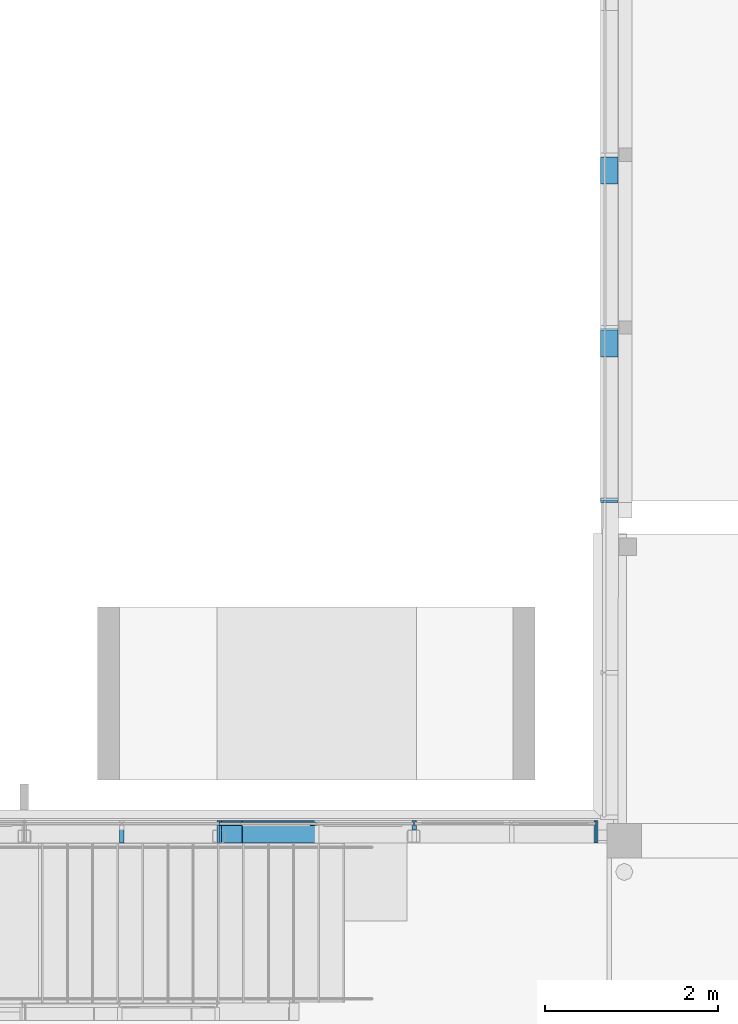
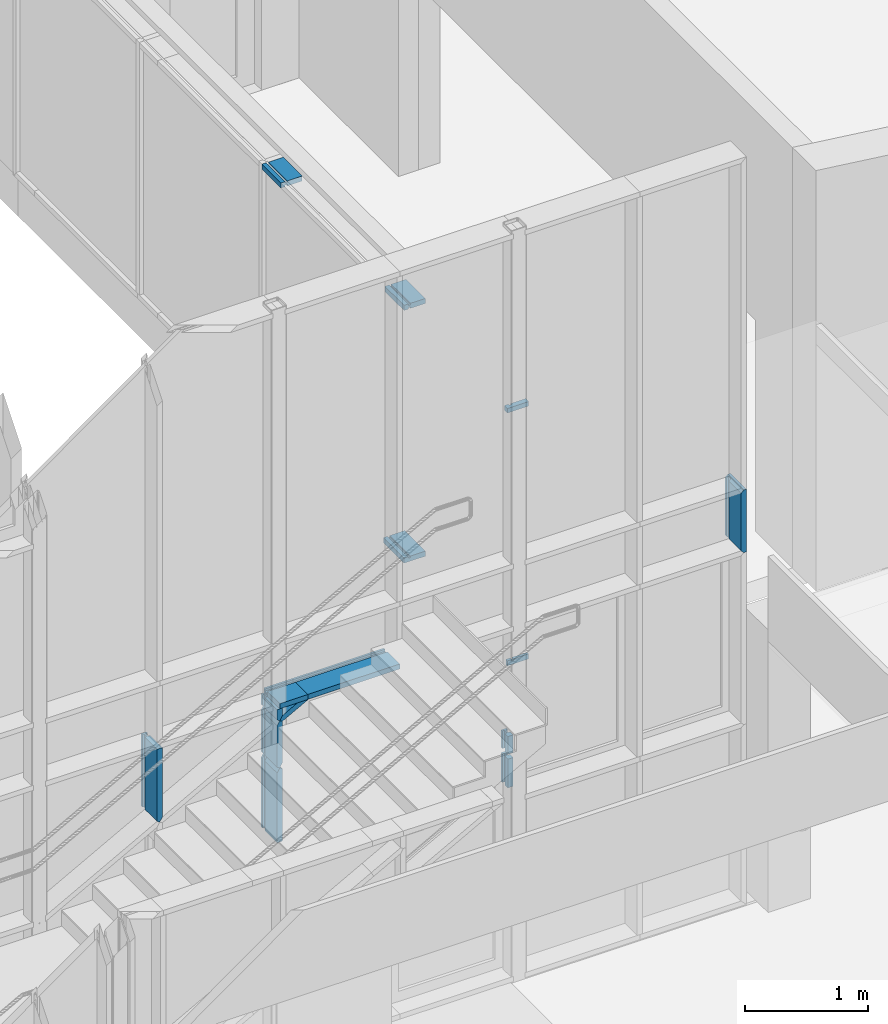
# One storey, part 70 of 301: 15 members, 2 elements without a shape of their own.
"""IFC2X3 building model written with IfcOpenShell, lengths in millimetres."""

from ifc_helpers import new_model, entity, si_unit, converted_unit, derived_unit, money_unit, direction, frame, origin_with_axes, place, context, subcontext, project, spatial, faceted_brep, material, type_object, element, aggregate, save


model = new_model("IFC2X3")

# Units and contexts
model_context = context("Model", 3, precision=0.01, world=origin_with_axes(), true_north=direction((0.0, 1.0)))
body_context = subcontext(model_context, "Body", "Model", "MODEL_VIEW")
ifc_project = project(units=[si_unit("LENGTHUNIT", "METRE", prefix="MILLI"), si_unit("AREAUNIT", "SQUARE_METRE"), si_unit("VOLUMEUNIT", "CUBIC_METRE"), converted_unit("PLANEANGLEUNIT", "DEGREE", entity("IfcPlaneAngleMeasure", 0.0174532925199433), si_unit("PLANEANGLEUNIT", "RADIAN"), dimensions=[0, 0, 0, 0, 0, 0, 0]), money_unit("EUR"), converted_unit("TIMEUNIT", "Year", entity("IfcTimeMeasure", 31557600.0), si_unit("TIMEUNIT", "SECOND"), dimensions=[0, 0, 1, 0, 0, 0, 0]), si_unit("MASSUNIT", "GRAM", prefix="KILO"), si_unit("THERMODYNAMICTEMPERATUREUNIT", "DEGREE_CELSIUS"), si_unit("LUMINOUSINTENSITYUNIT", "LUMEN"), si_unit("ENERGYUNIT", "JOULE", prefix="MEGA"), derived_unit("THERMALCONDUCTANCEUNIT", [(si_unit("POWERUNIT", "WATT"), 1), (si_unit("LENGTHUNIT", "METRE"), -1), (si_unit("THERMODYNAMICTEMPERATUREUNIT", "KELVIN"), -1)]), derived_unit("SPECIFICHEATCAPACITYUNIT", [(si_unit("ENERGYUNIT", "JOULE"), 1), (si_unit("MASSUNIT", "GRAM", prefix="KILO"), -1), (si_unit("THERMODYNAMICTEMPERATUREUNIT", "KELVIN"), -1)]), derived_unit("MASSDENSITYUNIT", [(si_unit("MASSUNIT", "GRAM", prefix="KILO"), 1), (si_unit("VOLUMEUNIT", "CUBIC_METRE"), -1)])], contexts=[model_context])

# Site, building, storey
site_placement = place(None, frame((0.0, 0.0, 8650.0), z_axis=(0.0, 0.0, 1.0), x_axis=(1.0, 0.0, 0.0)))
site = spatial("IfcSite", under=ifc_project, at=site_placement, Name="43301:001:0844", CompositionType="ELEMENT")
building_placement = place(site_placement, origin_with_axes())
building = spatial("IfcBuilding", under=site, at=building_placement, Name="Kuressaare Ametikooli tuulikute mehaanikute õppekorpus", CompositionType="ELEMENT")
storey_placement = place(building_placement, origin_with_axes())
storey = spatial("IfcBuildingStorey", under=building, at=storey_placement, Name="1.korrus", CompositionType="ELEMENT", Elevation=0.0)

# Curtain wall, members
curtain_wall_type = type_object("IfcCurtainWallType", Name="Curtain Wall Type", PredefinedType="NOTDEFINED")
curtain_wall_1_placement = place(storey_placement, frame((116704.6026822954, 28579.57374875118, 35.00000000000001), z_axis=(0.0, 0.0, 1.0), x_axis=(1.0, 0.0, 0.0)))
curtain_wall_1 = element("IfcCurtainWall", 1, at=curtain_wall_1_placement, inside=storey, type_object=curtain_wall_type, Name="KF-1.1")
ifc_material_1 = material(Name="Aluminium")
member_type_1 = type_object("IfcMemberType", Name="Boundary Frame 50 x 260", PredefinedType="NOTDEFINED")
member_1_placement = place(curtain_wall_1_placement, frame((1536.918865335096, 0.0, 3470.000025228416), z_axis=(0.0, 0.0, 1.0), x_axis=(-1.0, 0.0, 0.0)))
member_1 = element("IfcMember", 2, at=member_1_placement, type_object=member_type_1, material=ifc_material_1, context=body_context, shape_type="Brep", body=[
    faceted_brep([(4.999999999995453, 19.99999999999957, 614.9999747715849), (25.00000000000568, 19.99999999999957, 594.9999747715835), (25.00000000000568, 219.9999999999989, 594.9999747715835), (0.0, 219.9999999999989, 619.9999747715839), (0.0, -39.99999999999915, 619.9999747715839), (25.00000000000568, -39.99999999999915, 594.9999747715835), (25.00000000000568, -19.99999999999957, 594.9999747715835), (4.999999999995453, -19.99999999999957, 614.9999747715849), (4.999999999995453, 19.99999999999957, 4.999999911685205), (25.00000000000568, 19.99999999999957, 24.99999955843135), (25.00000000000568, 219.9999999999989, 24.99999955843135), (0.0, 219.9999999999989, 0.0), (-25.00000000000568, 219.9999999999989, 0.0), (-25.00000000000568, 219.9999999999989, 619.9999747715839), (-25.00000000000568, -39.99999999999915, 619.9999747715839), (-25.00000000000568, -39.99999999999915, 0.0), (0.0, -39.99999999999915, 0.0), (25.00000000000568, -39.99999999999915, 24.99999955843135), (25.00000000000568, -19.99999999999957, 24.99999955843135), (4.999999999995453, -19.99999999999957, 4.999999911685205)], [[[0, 1, 2, 3, 4, 5, 6, 7]], [[0, 8, 9, 1]], [[9, 10, 2, 1]], [[3, 2, 10, 11, 12, 13]], [[14, 4, 3, 13]], [[14, 15, 16, 17, 5, 4]], [[6, 5, 17, 18]], [[18, 19, 7, 6]], [[7, 19, 8, 0]], [[8, 19, 18, 17, 16, 11, 10, 9]], [[11, 16, 15, 12]], [[14, 13, 12, 15]]]),
])
member_2_placement = place(curtain_wall_1_placement, frame((-2549.327272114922, 0.0, 3470.000008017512), z_axis=(1.0, 0.0, 0.0), x_axis=(0.0, 0.0, 1.0)))
member_2 = element("IfcMember", 3, at=member_2_placement, type_object=member_type_1, material=ifc_material_1, context=body_context, shape_type="Brep", body=[
    faceted_brep([(-4.999999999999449, 19.99999999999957, 861.8272721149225), (-4.999999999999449, -19.99999999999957, 861.8272721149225), (-24.99999999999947, -19.99999999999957, 861.8272721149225), (-24.99999999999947, -39.99999999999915, 861.8272721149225), (25.00000000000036, -39.99999999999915, 861.8272721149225), (25.00000000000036, -19.99999999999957, 861.8272721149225), (5.000000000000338, -19.99999999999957, 861.8272721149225), (5.000000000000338, 19.99999999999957, 861.8272721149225), (25.00000000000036, 19.99999999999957, 861.8272721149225), (25.00000000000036, 219.9999999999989, 861.8272721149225), (-24.99999999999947, 219.9999999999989, 861.8272721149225), (-24.99999999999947, 19.99999999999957, 861.8272721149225), (-4.999999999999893, 19.99999999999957, 0.0), (-4.999999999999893, -19.99999999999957, 0.0), (-24.99999999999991, -19.99999999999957, 0.0), (-24.99999999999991, -39.99999999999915, 0.0), (24.99999999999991, -39.99999999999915, 0.0), (24.99999999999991, -19.99999999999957, 0.0), (4.999999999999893, -19.99999999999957, 0.0), (4.999999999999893, 19.99999999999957, 0.0), (24.99999999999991, 19.99999999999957, 0.0), (24.99999999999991, 219.9999999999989, 0.0), (-24.99999999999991, 219.9999999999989, 0.0), (-24.99999999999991, 19.99999999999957, 0.0)], [[[0, 1, 2, 3, 4, 5, 6, 7, 8, 9, 10, 11]], [[0, 12, 13, 1]], [[1, 13, 14, 2]], [[14, 15, 3, 2]], [[3, 15, 16, 4]], [[17, 5, 4, 16]], [[5, 17, 18, 6]], [[7, 6, 18, 19]], [[8, 7, 19, 20]], [[8, 20, 21, 9]], [[9, 21, 22, 10]], [[11, 10, 22, 23]], [[11, 23, 12, 0]], [[13, 12, 23, 22, 21, 20, 19, 18, 17, 16, 15, 14]]]),
])
member_3_placement = place(curtain_wall_1_placement, frame((-2812.5, 0.0, 3470.000008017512), z_axis=(1.0, 0.0, 0.0), x_axis=(0.0, 0.0, 1.0)))
member_3 = element("IfcMember", 4, at=member_3_placement, type_object=member_type_1, material=ifc_material_1, context=body_context, shape_type="Brep", body=[
    faceted_brep([(-5.000000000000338, 19.99999999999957, 263.1727278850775), (-5.000000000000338, -19.99999999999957, 263.1727278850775), (-25.00000000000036, -19.99999999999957, 263.1727278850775), (-25.00000000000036, -39.99999999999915, 263.1727278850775), (24.99999999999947, -39.99999999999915, 263.1727278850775), (24.99999999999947, -19.99999999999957, 263.1727278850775), (4.999999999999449, -19.99999999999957, 263.1727278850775), (4.999999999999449, 19.99999999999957, 263.1727278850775), (24.99999999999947, 19.99999999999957, 263.1727278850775), (24.99999999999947, 219.9999999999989, 263.1727278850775), (-25.00000000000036, 219.9999999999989, 263.1727278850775), (-25.00000000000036, 19.99999999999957, 263.1727278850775), (-4.999999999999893, 19.99999999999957, 0.0), (-4.999999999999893, -19.99999999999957, 0.0), (-24.99999999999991, -19.99999999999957, 0.0), (-24.99999999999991, -39.99999999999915, 0.0), (24.99999999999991, -39.99999999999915, 0.0), (24.99999999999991, -19.99999999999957, 0.0), (4.999999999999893, -19.99999999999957, 0.0), (4.999999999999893, 19.99999999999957, 0.0), (24.99999999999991, 19.99999999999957, 0.0), (24.99999999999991, 219.9999999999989, 0.0), (-24.99999999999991, 219.9999999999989, 0.0), (-24.99999999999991, 19.99999999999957, 0.0)], [[[0, 1, 2, 3, 4, 5, 6, 7, 8, 9, 10, 11]], [[0, 12, 13, 1]], [[1, 13, 14, 2]], [[14, 15, 3, 2]], [[3, 15, 16, 4]], [[17, 5, 4, 16]], [[5, 17, 18, 6]], [[7, 6, 18, 19]], [[8, 7, 19, 20]], [[8, 20, 21, 9]], [[9, 21, 22, 10]], [[11, 10, 22, 23]], [[11, 23, 12, 0]], [[13, 12, 23, 22, 21, 20, 19, 18, 17, 16, 15, 14]]]),
])
member_type_2 = type_object("IfcMemberType", Name="Mullion Frame 50 x 260", PredefinedType="NOTDEFINED")
member_4_placement = place(curtain_wall_1_placement, frame((-2549.327272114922, 0.0, 3470.000008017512), z_axis=(-0.8785772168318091, 0.0, -0.4776003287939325), x_axis=(0.4776003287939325, 0.0, -0.8785772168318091)))
member_4 = element("IfcMember", 5, at=member_4_placement, type_object=member_type_2, material=ifc_material_1, context=body_context, shape_type="Brep", body=[
    faceted_brep([(-5.000000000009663, 19.99999999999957, 291.1351687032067), (-5.000000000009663, -19.99999999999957, 291.1351687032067), (-25.00000000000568, -19.99999999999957, 257.4989600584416), (-25.00000000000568, -39.99999999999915, 257.4989600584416), (0.0, -39.99999999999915, 299.5442208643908), (0.0, 219.9999999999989, 299.5442208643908), (-25.00000000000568, 219.9999999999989, 257.4989600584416), (-25.00000000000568, 19.99999999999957, 257.4989600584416), (-5.000000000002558, 19.99999999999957, 61.54285144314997), (-5.000000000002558, -19.99999999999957, 61.54285144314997), (-25.00000000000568, -19.99999999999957, 98.33416685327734), (-25.00000000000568, -39.99999999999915, 98.33416685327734), (24.99999999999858, -39.99999999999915, 6.355878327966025), (24.99999999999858, -39.99999999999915, 284.6792875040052), (24.99999999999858, -19.99999999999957, 284.6792875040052), (4.999999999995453, -19.99999999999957, 296.5712341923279), (4.999999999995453, 19.99999999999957, 296.5712341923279), (24.99999999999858, 19.99999999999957, 284.6792875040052), (24.99999999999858, 219.9999999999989, 284.6792875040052), (24.99999999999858, 219.9999999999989, 6.355878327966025), (-25.00000000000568, 219.9999999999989, 98.33416685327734), (-25.00000000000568, 19.99999999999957, 98.33416685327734), (24.99999999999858, 19.99999999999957, 6.355878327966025), (4.999999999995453, 19.99999999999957, 43.14719373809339), (4.999999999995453, -19.99999999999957, 43.14719373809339), (24.99999999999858, -19.99999999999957, 6.355878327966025)], [[[0, 1, 2, 3, 4, 5, 6, 7]], [[0, 8, 9, 1]], [[1, 9, 10, 2]], [[10, 11, 3, 2]], [[11, 12, 13, 4, 3]], [[5, 4, 13, 14, 15, 16, 17, 18]], [[18, 19, 20, 6, 5]], [[7, 6, 20, 21]], [[7, 21, 8, 0]], [[9, 8, 21, 20, 19, 22, 23, 24, 25, 12, 11, 10]], [[25, 14, 13, 12]], [[14, 25, 24, 15]], [[16, 15, 24, 23]], [[17, 16, 23, 22]], [[17, 22, 19, 18]]]),
])
member_5_placement = place(curtain_wall_1_placement, frame((-2812.5, 0.0, 2099.999959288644), z_axis=(0.0, 0.0, 1.0), x_axis=(-1.0, 0.0, 0.0)))
member_5 = element("IfcMember", 6, at=member_5_placement, type_object=member_type_2, material=ifc_material_1, context=body_context, shape_type="Brep", body=[
    faceted_brep([(-4.999999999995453, 19.99999999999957, 755.4697203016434), (-4.999999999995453, -19.99999999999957, 755.4697203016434), (-25.00000000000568, -19.99999999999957, 743.5777733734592), (-25.00000000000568, -39.99999999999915, 743.5777733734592), (0.0, -39.99999999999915, 758.4427070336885), (0.0, 219.9999999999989, 758.4427070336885), (-25.00000000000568, 219.9999999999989, 743.5777733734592), (-25.00000000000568, 19.99999999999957, 743.5777733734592), (-4.999999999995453, 19.99999999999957, 24.99999999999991), (-4.999999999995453, -19.99999999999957, 24.99999999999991), (-25.00000000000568, -19.99999999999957, 24.99999999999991), (-25.00000000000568, -39.99999999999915, 24.99999999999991), (25.00000000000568, -39.99999999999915, 24.99999999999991), (25.00000000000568, -39.99999999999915, 716.3974470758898), (25.00000000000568, -19.99999999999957, 716.3974470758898), (4.999999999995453, -19.99999999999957, 750.0336550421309), (4.999999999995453, 19.99999999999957, 750.0336550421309), (25.00000000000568, 19.99999999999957, 716.3974470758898), (25.00000000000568, 219.9999999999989, 716.3974470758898), (25.00000000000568, 219.9999999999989, 24.99999999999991), (-25.00000000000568, 219.9999999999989, 24.99999999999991), (-25.00000000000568, 19.99999999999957, 24.99999999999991), (25.00000000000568, 19.99999999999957, 24.99999999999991), (4.999999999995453, 19.99999999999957, 24.99999999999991), (4.999999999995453, -19.99999999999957, 24.99999999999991), (25.00000000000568, -19.99999999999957, 24.99999999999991)], [[[0, 1, 2, 3, 4, 5, 6, 7]], [[0, 8, 9, 1]], [[1, 9, 10, 2]], [[10, 11, 3, 2]], [[11, 12, 13, 4, 3]], [[5, 4, 13, 14, 15, 16, 17, 18]], [[18, 19, 20, 6, 5]], [[7, 6, 20, 21]], [[7, 21, 8, 0]], [[9, 8, 21, 20, 19, 22, 23, 24, 25, 12, 11, 10]], [[25, 14, 13, 12]], [[14, 25, 24, 15]], [[16, 15, 24, 23]], [[17, 16, 23, 22]], [[17, 22, 19, 18]]]),
])
member_6_placement = place(curtain_wall_1_placement, frame((-2812.5, 0.0, 2858.442666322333), z_axis=(0.0, 0.0, 1.0), x_axis=(-1.0, 0.0, 0.0)))
member_6 = element("IfcMember", 7, at=member_6_placement, type_object=member_type_2, material=ifc_material_1, context=body_context, shape_type="Brep", body=[
    faceted_brep([(-4.999999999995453, 19.99999999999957, 465.5219366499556), (-4.999999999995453, -19.99999999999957, 465.5219366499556), (-25.00000000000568, -19.99999999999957, 453.6299899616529), (-25.00000000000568, -39.99999999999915, 453.6299899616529), (0.0, -39.99999999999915, 468.4949233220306), (0.0, 219.9999999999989, 468.4949233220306), (-25.00000000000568, 219.9999999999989, 453.6299899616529), (-25.00000000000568, 19.99999999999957, 453.6299899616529), (-4.999999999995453, 19.99999999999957, 8.409051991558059), (-4.999999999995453, -19.99999999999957, 8.409051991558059), (-25.00000000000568, -19.99999999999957, 42.04525995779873), (-25.00000000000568, -39.99999999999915, 42.04525995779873), (0.0, -39.99999999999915, 0.0), (25.00000000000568, -39.99999999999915, 14.86493366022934), (25.00000000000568, -39.99999999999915, 426.4496633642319), (25.00000000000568, -19.99999999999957, 426.4496633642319), (4.999999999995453, -19.99999999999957, 460.085871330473), (4.999999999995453, 19.99999999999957, 460.085871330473), (25.00000000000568, 19.99999999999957, 426.4496633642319), (25.00000000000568, 219.9999999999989, 426.4496633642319), (0.0, 219.9999999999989, 0.0), (-25.00000000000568, 219.9999999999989, 42.04525995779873), (25.00000000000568, 219.9999999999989, 14.86493366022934), (-25.00000000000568, 19.99999999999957, 42.04525995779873), (25.00000000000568, 19.99999999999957, 14.86493366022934), (4.999999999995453, 19.99999999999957, 2.972986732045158), (4.999999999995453, -19.99999999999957, 2.972986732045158), (25.00000000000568, -19.99999999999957, 14.86493366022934)], [[[0, 1, 2, 3, 4, 5, 6, 7]], [[0, 8, 9, 1]], [[1, 9, 10, 2]], [[10, 11, 3, 2]], [[12, 13, 14, 4, 3, 11]], [[5, 4, 14, 15, 16, 17, 18, 19]], [[20, 21, 6, 5, 19, 22]], [[7, 6, 21, 23]], [[7, 23, 8, 0]], [[9, 8, 23, 21, 20, 12, 11, 10]], [[13, 12, 20, 22, 24, 25, 26, 27]], [[27, 15, 14, 13]], [[15, 27, 26, 16]], [[17, 16, 26, 25]], [[18, 17, 25, 24]], [[18, 24, 22, 19]]]),
])
member_7_placement = place(curtain_wall_1_placement, frame((-3937.5, 0.0, 2715.380247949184), z_axis=(0.0, 0.0, 1.0), x_axis=(-1.0, 0.0, 0.0)))
member_7 = element("IfcMember", 8, at=member_7_placement, type_object=member_type_2, material=ifc_material_1, context=body_context, shape_type="Brep", body=[
    faceted_brep([(-4.999999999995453, 19.99999999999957, 729.6197600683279), (-4.999999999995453, -19.99999999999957, 729.6197600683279), (-25.00000000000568, -19.99999999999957, 729.6197600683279), (-25.00000000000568, -39.99999999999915, 729.6197600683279), (25.00000000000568, -39.99999999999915, 729.6197600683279), (25.00000000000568, -19.99999999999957, 729.6197600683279), (4.999999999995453, -19.99999999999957, 729.6197600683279), (4.999999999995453, 19.99999999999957, 729.6197600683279), (25.00000000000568, 19.99999999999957, 729.6197600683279), (25.00000000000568, 219.9999999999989, 729.6197600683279), (-25.00000000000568, 219.9999999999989, 729.6197600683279), (-25.00000000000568, 19.99999999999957, 729.6197600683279), (-4.999999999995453, 19.99999999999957, 8.409051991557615), (-4.999999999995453, -19.99999999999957, 8.409051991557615), (-25.00000000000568, -19.99999999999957, 42.04525995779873), (-25.00000000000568, -39.99999999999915, 42.04525995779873), (25.00000000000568, -39.99999999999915, 14.86493366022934), (0.0, -39.99999999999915, 0.0), (25.00000000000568, -19.99999999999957, 14.86493366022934), (4.999999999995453, -19.99999999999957, 2.972986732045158), (4.999999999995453, 19.99999999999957, 2.972986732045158), (25.00000000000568, 19.99999999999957, 14.86493366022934), (25.00000000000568, 219.9999999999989, 14.86493366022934), (-25.00000000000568, 219.9999999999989, 42.04525995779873), (0.0, 219.9999999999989, 0.0), (-25.00000000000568, 19.99999999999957, 42.04525995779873)], [[[0, 1, 2, 3, 4, 5, 6, 7, 8, 9, 10, 11]], [[0, 12, 13, 1]], [[1, 13, 14, 2]], [[14, 15, 3, 2]], [[16, 4, 3, 15, 17]], [[18, 5, 4, 16]], [[5, 18, 19, 6]], [[7, 6, 19, 20]], [[8, 7, 20, 21]], [[8, 21, 22, 9]], [[23, 10, 9, 22, 24]], [[11, 10, 23, 25]], [[11, 25, 12, 0]], [[13, 12, 25, 23, 24, 17, 15, 14]], [[16, 17, 24, 22, 21, 20, 19, 18]]]),
])
member_8_placement = place(curtain_wall_1_placement, frame((-2812.5, 0.0, 3326.937589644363), z_axis=(0.0, 0.0, 1.0), x_axis=(-1.0, 0.0, 0.0)))
member_8 = element("IfcMember", 9, at=member_8_placement, type_object=member_type_2, material=ifc_material_1, context=body_context, shape_type="Brep", body=[
    faceted_brep([(-4.999999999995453, 19.99999999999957, 118.0624183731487), (-4.999999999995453, -19.99999999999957, 118.0624183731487), (-25.00000000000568, -19.99999999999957, 118.0624183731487), (-25.00000000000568, -39.99999999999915, 118.0624183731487), (25.00000000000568, -39.99999999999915, 118.0624183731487), (25.00000000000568, -19.99999999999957, 118.0624183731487), (4.999999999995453, -19.99999999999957, 118.0624183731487), (4.999999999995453, 19.99999999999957, 118.0624183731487), (25.00000000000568, 19.99999999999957, 118.0624183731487), (25.00000000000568, 219.9999999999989, 118.0624183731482), (-25.00000000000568, 219.9999999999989, 118.0624183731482), (-25.00000000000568, 19.99999999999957, 118.0624183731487), (-4.999999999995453, 19.99999999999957, 8.409052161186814), (-4.999999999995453, -19.99999999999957, 8.409052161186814), (-25.00000000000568, -19.99999999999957, 42.04526080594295), (-25.00000000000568, -39.99999999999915, 42.04526080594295), (25.00000000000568, -39.99999999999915, 14.86493366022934), (0.0, -39.99999999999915, 0.0), (25.00000000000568, -19.99999999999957, 14.86493366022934), (4.999999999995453, -19.99999999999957, 2.972986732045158), (4.999999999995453, 19.99999999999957, 2.972986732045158), (25.00000000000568, 19.99999999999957, 14.86493366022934), (25.00000000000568, 219.9999999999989, 14.86493366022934), (-25.00000000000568, 219.9999999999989, 42.04526080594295), (0.0, 219.9999999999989, 0.0), (-25.00000000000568, 19.99999999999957, 42.04526080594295)], [[[0, 1, 2, 3, 4, 5, 6, 7, 8, 9, 10, 11]], [[0, 12, 13, 1]], [[1, 13, 14, 2]], [[14, 15, 3, 2]], [[16, 4, 3, 15, 17]], [[18, 5, 4, 16]], [[5, 18, 19, 6]], [[7, 6, 19, 20]], [[8, 7, 20, 21]], [[8, 21, 22, 9]], [[23, 10, 9, 22, 24]], [[11, 10, 23, 25]], [[11, 25, 12, 0]], [[13, 12, 25, 23, 24, 17, 15, 14]], [[16, 17, 24, 22, 21, 20, 19, 18]]]),
])
member_type_3 = type_object("IfcMemberType", Name="50 x 110", PredefinedType="NOTDEFINED")
member_9_placement = place(curtain_wall_1_placement, frame((-562.5, 0.0, 1764.999998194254), z_axis=(0.0, 0.0, 1.0), x_axis=(-1.0, 0.0, 0.0)))
member_9 = element("IfcMember", 10, at=member_9_placement, type_object=member_type_3, material=ifc_material_1, context=body_context, shape_type="Brep", body=[
    faceted_brep([(-4.999999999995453, 19.99999999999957, 309.9999610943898), (-4.999999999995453, -19.99999999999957, 309.9999610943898), (-25.00000000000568, -19.99999999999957, 309.9999610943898), (-25.00000000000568, -39.99999999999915, 309.9999610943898), (25.00000000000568, -39.99999999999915, 309.9999610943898), (25.00000000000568, -19.99999999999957, 309.9999610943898), (4.999999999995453, -19.99999999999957, 309.9999610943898), (4.999999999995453, 19.99999999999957, 309.9999610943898), (25.00000000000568, 19.99999999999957, 309.9999610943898), (25.00000000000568, 70.00000000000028, 309.9999610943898), (-25.00000000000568, 70.00000000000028, 309.9999610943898), (-25.00000000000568, 19.99999999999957, 309.9999610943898), (-4.999999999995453, 19.99999999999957, 25.00000015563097), (-4.999999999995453, -19.99999999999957, 24.99999984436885), (-25.00000000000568, -19.99999999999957, 24.99999984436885), (-25.00000000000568, -39.99999999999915, 24.99999968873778), (25.00000000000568, -39.99999999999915, 24.99999968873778), (25.00000000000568, -19.99999999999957, 24.99999984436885), (4.999999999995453, -19.99999999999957, 24.99999984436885), (4.999999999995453, 19.99999999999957, 25.00000015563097), (25.00000000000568, 19.99999999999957, 25.00000015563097), (25.00000000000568, 70.00000000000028, 25.00000054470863), (-25.00000000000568, 70.00000000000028, 25.00000054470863), (-25.00000000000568, 19.99999999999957, 25.00000015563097)], [[[0, 1, 2, 3, 4, 5, 6, 7, 8, 9, 10, 11]], [[0, 12, 13, 1]], [[1, 13, 14, 2]], [[14, 15, 3, 2]], [[4, 3, 15, 16]], [[17, 5, 4, 16]], [[5, 17, 18, 6]], [[7, 6, 18, 19]], [[8, 7, 19, 20]], [[8, 20, 21, 9]], [[10, 9, 21, 22]], [[11, 10, 22, 23]], [[11, 23, 12, 0]], [[13, 12, 23, 22, 21, 20, 19, 18, 17, 16, 15, 14]]]),
])
member_10_placement = place(curtain_wall_1_placement, frame((-562.5, 0.0, 2099.999959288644), z_axis=(0.0, 0.0, 1.0), x_axis=(-1.0, 0.0, 0.0)))
member_10 = element("IfcMember", 11, at=member_10_placement, type_object=member_type_3, material=ifc_material_1, context=body_context, shape_type="Brep", body=[
    faceted_brep([(-4.999999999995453, 19.99999999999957, 200.0000161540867), (-4.999999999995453, -19.99999999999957, 200.0000161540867), (-25.00000000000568, -19.99999999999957, 200.0000161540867), (-25.00000000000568, -39.99999999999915, 200.0000161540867), (25.00000000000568, -39.99999999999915, 200.0000161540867), (25.00000000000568, -19.99999999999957, 200.0000161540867), (4.999999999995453, -19.99999999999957, 200.0000161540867), (4.999999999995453, 19.99999999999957, 200.0000161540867), (25.00000000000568, 19.99999999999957, 200.0000161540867), (25.00000000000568, 70.00000000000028, 200.0000161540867), (-25.00000000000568, 70.00000000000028, 200.0000161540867), (-25.00000000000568, 19.99999999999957, 200.0000161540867), (-4.999999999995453, 19.99999999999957, 24.99999999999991), (-4.999999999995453, -19.99999999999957, 24.99999999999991), (-25.00000000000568, -19.99999999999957, 24.99999999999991), (-25.00000000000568, -39.99999999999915, 24.99999999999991), (25.00000000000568, -39.99999999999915, 24.99999999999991), (25.00000000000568, -19.99999999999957, 24.99999999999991), (4.999999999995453, -19.99999999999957, 24.99999999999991), (4.999999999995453, 19.99999999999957, 24.99999999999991), (25.00000000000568, 19.99999999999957, 24.99999999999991), (25.00000000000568, 70.00000000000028, 24.99999999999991), (-25.00000000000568, 70.00000000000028, 24.99999999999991), (-25.00000000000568, 19.99999999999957, 24.99999999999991)], [[[0, 1, 2, 3, 4, 5, 6, 7, 8, 9, 10, 11]], [[0, 12, 13, 1]], [[1, 13, 14, 2]], [[14, 15, 3, 2]], [[4, 3, 15, 16]], [[17, 5, 4, 16]], [[5, 17, 18, 6]], [[7, 6, 18, 19]], [[8, 7, 19, 20]], [[8, 20, 21, 9]], [[10, 9, 21, 22]], [[11, 10, 22, 23]], [[11, 23, 12, 0]], [[13, 12, 23, 22, 21, 20, 19, 18, 17, 16, 15, 14]]]),
])
aggregate(curtain_wall_1, [member_9, member_4, member_5, member_1, member_6, member_10, member_7, member_8, member_2, member_3])

curtain_wall_2_placement = place(storey_placement, frame((118344.5490393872, 39517.28066569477, -20.0), z_axis=(0.0, 0.0, 1.0), x_axis=(1.0, 0.0, 0.0)))
curtain_wall_2 = element("IfcCurtainWall", 12, at=curtain_wall_2_placement, inside=storey, type_object=curtain_wall_type, Name="KF-XX")
ifc_material_2 = material(Name="Metall - Alumiinium")
member_type_4 = type_object("IfcMemberType", Name="Boundary Frame 50 x 200", PredefinedType="NOTDEFINED")
member_11_placement = place(curtain_wall_2_placement, frame((0.0, -7202.666765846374, 0.0), z_axis=(0.0, -1.0, 0.0), x_axis=(0.0, 0.0, 1.0)))
member_11 = element("IfcMember", 13, at=member_11_placement, type_object=member_type_4, material=ifc_material_2, context=body_context, shape_type="Brep", body=[
    faceted_brep([(35.0, -10.00000000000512, 24.95528553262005), (35.0, 10.00000000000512, 24.95528553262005), (50.0, 10.00000000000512, 24.95528553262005), (50.0, 49.99999999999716, 24.95528553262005), (0.0, 49.99999999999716, 24.95528553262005), (0.0, 0.0, 24.95528553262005), (0.0, -150.0000000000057, 24.95528553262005), (49.99999999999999, -150.0000000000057, 24.95528553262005), (50.0, -10.00000000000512, 24.95528553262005), (35.0, -10.00000000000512, 0.0), (35.0, 10.00000000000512, 0.0), (50.0, 10.00000000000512, 0.0), (50.0, 49.99999999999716, 0.0), (0.0, 49.99999999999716, 0.0), (0.0, 0.0, 0.0), (0.0, -150.0000000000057, 0.0), (49.99999999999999, -150.0000000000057, 0.0), (50.0, -10.00000000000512, 0.0)], [[[0, 1, 2, 3, 4, 5, 6, 7, 8]], [[1, 0, 9, 10]], [[11, 2, 1, 10]], [[2, 11, 12, 3]], [[13, 4, 3, 12]], [[14, 5, 4, 13]], [[15, 6, 5, 14]], [[16, 7, 6, 15]], [[17, 8, 7, 16]], [[0, 8, 17, 9]], [[9, 17, 16, 15, 14, 13, 12, 11, 10]]]),
])
member_12_placement = place(curtain_wall_2_placement, frame((0.0, -5212.677131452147, 0.0), z_axis=(0.0, -1.0, 0.0), x_axis=(0.0, 0.0, 1.0)))
member_12 = element("IfcMember", 14, at=member_12_placement, type_object=member_type_4, material=ifc_material_2, context=body_context, shape_type="Brep", body=[
    faceted_brep([(35.00000000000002, -10.00000000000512, 337.3425313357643), (35.00000000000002, 10.00000000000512, 337.3425313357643), (50.00000000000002, 10.00000000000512, 337.3425313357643), (50.00000000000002, 49.99999999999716, 337.3425313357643), (0.0, 49.99999999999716, 337.3425313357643), (0.0, 0.0, 337.3425313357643), (0.0, -150.0000000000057, 337.3425313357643), (50.00000000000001, -150.0000000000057, 337.3425313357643), (50.00000000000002, -10.00000000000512, 337.3425313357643), (35.0, -10.00000000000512, 0.0), (35.0, 10.00000000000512, 0.0), (50.0, 10.00000000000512, 0.0), (50.0, 49.99999999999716, 0.0), (0.0, 49.99999999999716, 0.0), (0.0, 0.0, 0.0), (0.0, -150.0000000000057, 0.0), (49.99999999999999, -150.0000000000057, 0.0), (50.0, -10.00000000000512, 0.0)], [[[0, 1, 2, 3, 4, 5, 6, 7, 8]], [[1, 0, 9, 10]], [[11, 2, 1, 10]], [[2, 11, 12, 3]], [[13, 4, 3, 12]], [[14, 5, 4, 13]], [[15, 6, 5, 14]], [[16, 7, 6, 15]], [[17, 8, 7, 16]], [[0, 8, 17, 9]], [[9, 17, 16, 15, 14, 13, 12, 11, 10]]]),
])
member_13_placement = place(curtain_wall_2_placement, frame((0.0, -7227.622051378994, 2530.000039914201), z_axis=(0.0, 0.0, 1.0), x_axis=(0.0, 1.0, 0.0)))
member_13 = element("IfcMember", 15, at=member_13_placement, type_object=member_type_4, material=ifc_material_2, context=body_context, shape_type="Brep", body=[
    faceted_brep([(34.99999999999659, -10.00000000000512, 19.99989833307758), (34.99999999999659, 10.00000000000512, 19.99989833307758), (49.99999999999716, 10.00000000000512, 19.99989833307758), (49.99999999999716, 49.99999999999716, 19.99989833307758), (0.0, 49.99999999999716, 19.99989833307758), (0.0, 0.0, 19.99989833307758), (0.0, -150.0000000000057, 19.99989833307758), (49.99999999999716, -150.0000000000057, 19.99989833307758), (49.99999999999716, -10.00000000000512, 19.99989833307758), (34.99999999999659, -10.00000000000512, -24.99999999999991), (34.99999999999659, 10.00000000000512, -24.99999999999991), (49.99999999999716, 10.00000000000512, -24.99999999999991), (49.99999999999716, 49.99999999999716, -24.99999999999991), (0.0, 49.99999999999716, -24.99999999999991), (0.0, 0.0, -24.99999999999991), (0.0, -150.0000000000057, -24.99999999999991), (49.99999999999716, -150.0000000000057, -24.99999999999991), (49.99999999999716, -10.00000000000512, -24.99999999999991)], [[[0, 1, 2, 3, 4, 5, 6, 7, 8]], [[1, 0, 9, 10]], [[11, 2, 1, 10]], [[2, 11, 12, 3]], [[13, 4, 3, 12]], [[14, 5, 4, 13]], [[15, 6, 5, 14]], [[16, 7, 6, 15]], [[17, 8, 7, 16]], [[0, 8, 17, 9]], [[9, 17, 16, 15, 14, 13, 12, 11, 10]]]),
])
member_type_5 = type_object("IfcMemberType", Name="Transom Frame 50 x 200", PredefinedType="NOTDEFINED")
member_14_placement = place(curtain_wall_2_placement, frame((0.0, -5212.677131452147, 2530.000039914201), z_axis=(0.0, -1.0, 0.0), x_axis=(0.0, 0.0, 1.0)))
member_14 = element("IfcMember", 16, at=member_14_placement, type_object=member_type_5, material=ifc_material_2, context=body_context, shape_type="Brep", body=[
    faceted_brep([(-9.999999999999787, -10.00000000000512, 337.3425313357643), (-24.99999999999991, -10.00000000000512, 337.3425313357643), (-24.99999999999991, -150.0000000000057, 337.3425313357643), (24.99999999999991, -150.0000000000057, 337.3425313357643), (24.99999999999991, -10.00000000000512, 337.3425313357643), (10.00000000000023, -10.00000000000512, 337.3425313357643), (10.00000000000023, 10.00000000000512, 337.3425313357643), (24.99999999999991, 10.00000000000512, 337.3425313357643), (24.99999999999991, 49.99999999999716, 337.3425313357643), (-24.99999999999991, 49.99999999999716, 337.3425313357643), (-24.99999999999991, 10.00000000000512, 337.3425313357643), (-9.999999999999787, 10.00000000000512, 337.3425313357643), (-9.999999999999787, -10.00000000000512, 24.99999999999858), (-24.99999999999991, -10.00000000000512, 24.99999999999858), (-24.99999999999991, -150.0000000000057, 24.99999999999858), (24.99999999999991, -150.0000000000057, 24.99999999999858), (24.99999999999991, -10.00000000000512, 24.99999999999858), (9.999999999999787, -10.00000000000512, 24.99999999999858), (9.999999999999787, 10.00000000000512, 24.99999999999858), (24.99999999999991, 10.00000000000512, 24.99999999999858), (24.99999999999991, 49.99999999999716, 24.99999999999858), (-24.99999999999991, 49.99999999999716, 24.99999999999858), (-24.99999999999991, 10.00000000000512, 24.99999999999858), (-9.999999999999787, 10.00000000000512, 24.99999999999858)], [[[0, 1, 2, 3, 4, 5, 6, 7, 8, 9, 10, 11]], [[1, 0, 12, 13]], [[1, 13, 14, 2]], [[2, 14, 15, 3]], [[4, 3, 15, 16]], [[4, 16, 17, 5]], [[5, 17, 18, 6]], [[7, 6, 18, 19]], [[19, 20, 8, 7]], [[8, 20, 21, 9]], [[22, 10, 9, 21]], [[11, 10, 22, 23]], [[0, 11, 23, 12]], [[23, 22, 21, 20, 19, 18, 17, 16, 15, 14, 13, 12]]]),
])
member_15_placement = place(curtain_wall_2_placement, frame((0.0, -3216.533766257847, 2530.000039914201), z_axis=(0.0, -1.0, 0.0), x_axis=(0.0, 0.0, 1.0)))
member_15 = element("IfcMember", 17, at=member_15_placement, type_object=member_type_5, material=ifc_material_2, context=body_context, shape_type="Brep", body=[
    faceted_brep([(-9.999999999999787, -10.00000000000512, 333.485896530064), (-24.99999999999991, -10.00000000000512, 333.485896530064), (-24.99999999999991, -150.0000000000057, 333.485896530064), (24.99999999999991, -150.0000000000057, 333.485896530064), (24.99999999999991, -10.00000000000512, 333.485896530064), (10.00000000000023, -10.00000000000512, 333.485896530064), (10.00000000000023, 10.00000000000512, 333.485896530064), (24.99999999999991, 10.00000000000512, 333.485896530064), (24.99999999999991, 49.99999999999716, 333.485896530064), (-24.99999999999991, 49.99999999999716, 333.485896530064), (-24.99999999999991, 10.00000000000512, 333.485896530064), (-9.999999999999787, 10.00000000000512, 333.485896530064), (-9.999999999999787, -10.00000000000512, 24.99999999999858), (-24.99999999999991, -10.00000000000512, 24.99999999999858), (-24.99999999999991, -150.0000000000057, 24.99999999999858), (24.99999999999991, -150.0000000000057, 24.99999999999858), (24.99999999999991, -10.00000000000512, 24.99999999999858), (9.999999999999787, -10.00000000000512, 24.99999999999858), (9.999999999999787, 10.00000000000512, 24.99999999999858), (24.99999999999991, 10.00000000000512, 24.99999999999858), (24.99999999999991, 49.99999999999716, 24.99999999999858), (-24.99999999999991, 49.99999999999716, 24.99999999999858), (-24.99999999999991, 10.00000000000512, 24.99999999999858), (-9.999999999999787, 10.00000000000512, 24.99999999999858)], [[[0, 1, 2, 3, 4, 5, 6, 7, 8, 9, 10, 11]], [[1, 0, 12, 13]], [[1, 13, 14, 2]], [[2, 14, 15, 3]], [[4, 3, 15, 16]], [[4, 16, 17, 5]], [[5, 17, 18, 6]], [[7, 6, 18, 19]], [[19, 20, 8, 7]], [[8, 20, 21, 9]], [[22, 10, 9, 21]], [[11, 10, 22, 23]], [[0, 11, 23, 12]], [[23, 22, 21, 20, 19, 18, 17, 16, 15, 14, 13, 12]]]),
])
aggregate(curtain_wall_2, [member_14, member_11, member_12, member_15, member_13])

save(model, "model.ifc")
